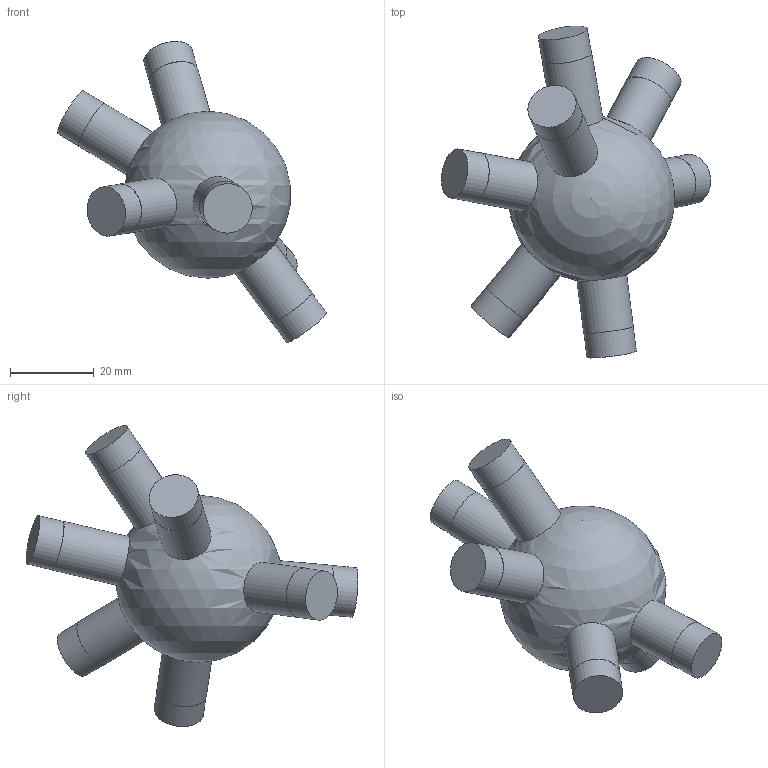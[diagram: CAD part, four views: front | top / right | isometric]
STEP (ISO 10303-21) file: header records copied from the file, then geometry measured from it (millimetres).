
FILE_DESCRIPTION(('Open CASCADE Model'),'2;1');
FILE_NAME('Open CASCADE Shape Model','2026-10-21T12:47:57',('Author'),( 'Open CASCADE'),'Open CASCADE STEP processor 7.9','Open CASCADE 7.9' ,'Unknown');
FILE_SCHEMA(('AUTOMOTIVE_DESIGN { 1 0 10303 214 1 1 1 1 }'));
Length unit declared in the file: millimetre
Products named in the file (1): Open CASCADE STEP translator 7.9 71
Bounding box: 64.45 x 79.5 x 72.13 mm (x, y, z)
Volume: 49148.6 mm3; surface area: 10356.2 mm2
Topology: 1 solids, 1 shells, 29 faces, 47 edges, 32 vertices
Faces by surface type: cylinder 14, plane 14, sphere 1
Full cylindrical faces by diameter (mm): 11.9 x7, 12 x7
Entity records: 1724 total; most frequent: CARTESIAN_POINT 650, DIRECTION 221, ORIENTED_EDGE 92, PCURVE 92, DEFINITIONAL_REPRESENTATION 92, LINE 76, VECTOR 76, AXIS2_PLACEMENT_3D 62
